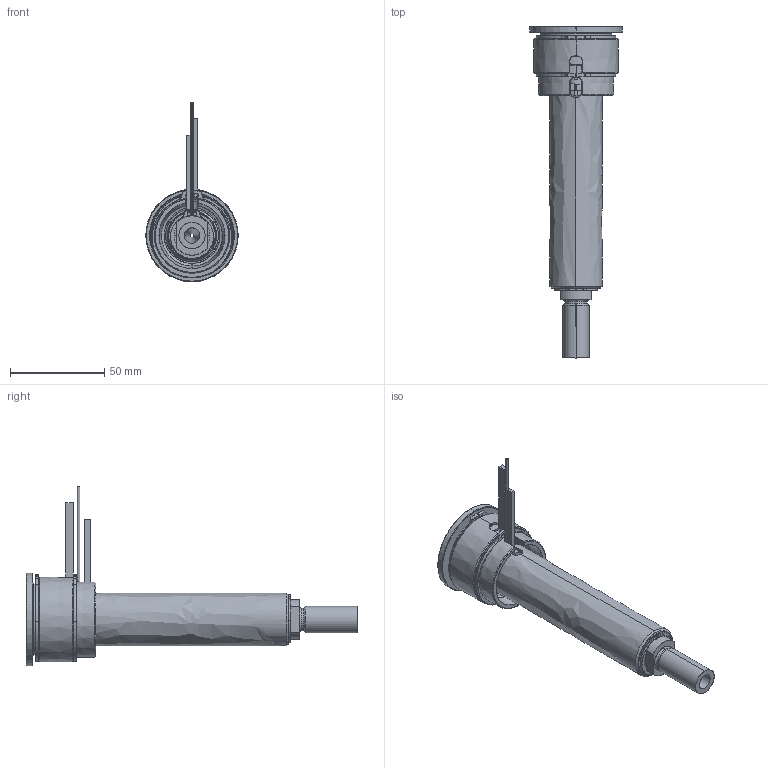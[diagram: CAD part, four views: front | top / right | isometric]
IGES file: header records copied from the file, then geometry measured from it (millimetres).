
Start section: SolidWorks IGES file using analytic representation for surfaces
Global section: file name: C:\Documents and Settings\ws-20\Desktop\TEM\UGBE4503-S-A-P-5 [Ød-2.0 P-25 ØC-10].IGS; native system: SolidWorks 2012; preprocessor: SolidWorks 2012; author: ws-20; date: 120412.154741; units: millimetre
Bounding box: 49 x 176 x 95.15 mm (x, y, z)
Surface area: 58256.3 mm2 (no closed solid volume)
Topology: 0 solids, 0 shells, 165 faces, 3139 edges, 3139 vertices
Faces by surface type: revolution 106, bspline 59
